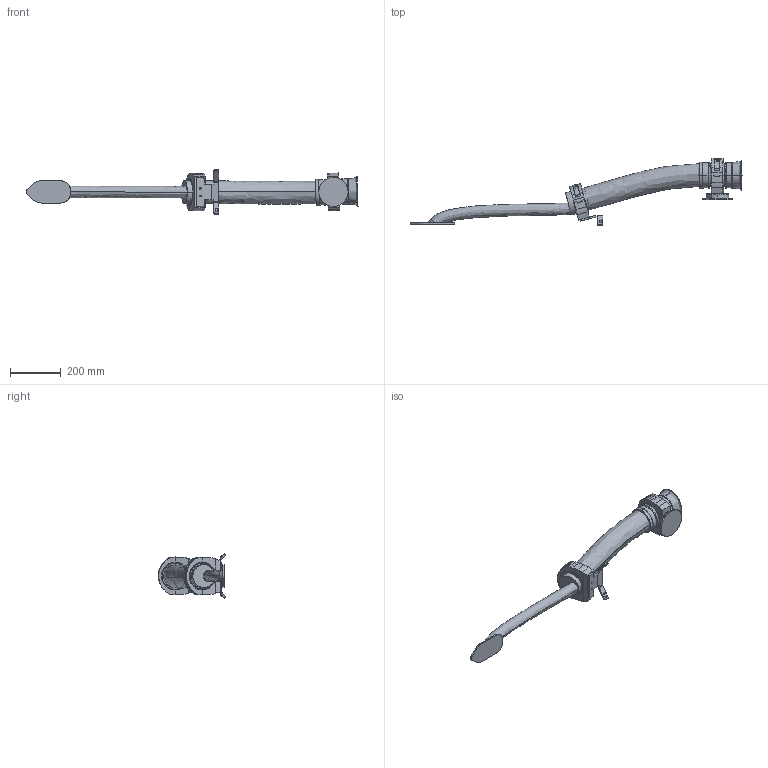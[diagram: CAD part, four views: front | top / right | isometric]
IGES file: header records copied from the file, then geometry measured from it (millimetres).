
Start section: SolidWorks IGES file using analytic representation for surfaces
Global section: file name: C:\Data\SAP_DOC\IRB6740_lightweight\6750S\IRB 6750S ASM\IRB6750S-LID-SW_220kg-360_OC_01_SW_J\IRB6750S-LID-SW_220kg-360_OC_01_IGES_J\IRB6750S-LID_ALL-360-OC_00_LINK04_CABLE.igs; native system: SolidWorks 2024; preprocessor: SolidWorks 2024; author: SEJAOLS6; date: 260513.074519; units: millimetre
Bounding box: 1309.81 x 265.3 x 174.65 mm (x, y, z)
Surface area: 445251.1 mm2 (no closed solid volume)
Topology: 0 solids, 0 shells, 388 faces, 7701 edges, 7701 vertices
Faces by surface type: bspline 220, revolution 168
